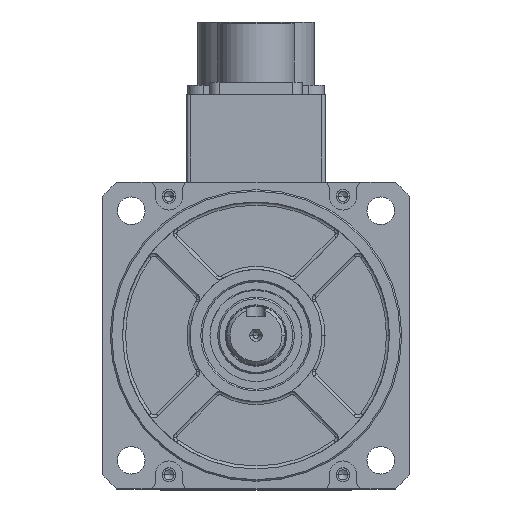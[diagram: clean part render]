
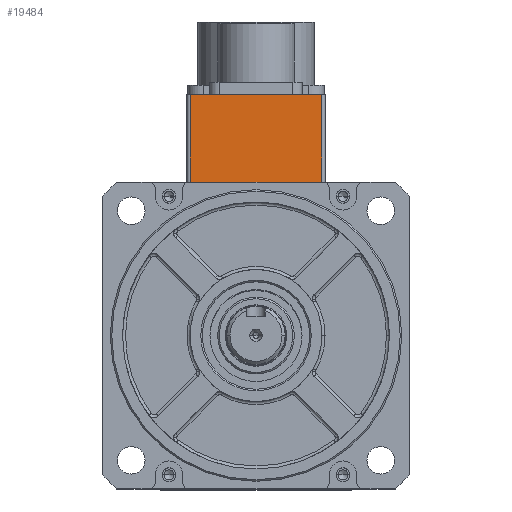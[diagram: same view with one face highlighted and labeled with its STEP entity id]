
A CAD part, top view. The second image highlights one B-rep face of the part: STEP entity #19484.
In plain terms, the highlighted planar face has unit normal (0, 0, 1) as drawn and (-1, 0, 0) by its records, which use the part's own axes.
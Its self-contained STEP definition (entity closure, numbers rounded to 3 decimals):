
#1937 = DIRECTION ( 'NONE',  ( 0., 0., 1. ) ) ;
#2674 = ORIENTED_EDGE ( 'NONE', *, *, #56468, .T. ) ;
#4221 = CARTESIAN_POINT ( 'NONE',  ( -54.5, 21.5, -29. ) ) ;
#5061 = LINE ( 'NONE', #8576, #42143 ) ;
#8576 = CARTESIAN_POINT ( 'NONE',  ( -54.5, 21.5, 0. ) ) ;
#11393 = VECTOR ( 'NONE', #21483, 1000. ) ;
#12619 = EDGE_LOOP ( 'NONE', ( #29176, #14148, #57326, #2674 ) ) ;
#12648 = LINE ( 'NONE', #43446, #28147 ) ;
#13888 = EDGE_CURVE ( 'NONE', #27219, #23662, #26453, .T. ) ;
#14148 = ORIENTED_EDGE ( 'NONE', *, *, #16657, .F. ) ;
#16657 = EDGE_CURVE ( 'NONE', #27219, #16705, #12648, .T. ) ;
#16705 = VERTEX_POINT ( 'NONE', #46049 ) ;
#18610 = CARTESIAN_POINT ( 'NONE',  ( -54.5, -21.5, -29. ) ) ;
#19484 = ADVANCED_FACE ( 'NONE', ( #36812 ), #37395, .T. ) ;
#21483 = DIRECTION ( 'NONE',  ( 0., -1., 0. ) ) ;
#23599 = CARTESIAN_POINT ( 'NONE',  ( -54.5, 21.5, -29. ) ) ;
#23662 = VERTEX_POINT ( 'NONE', #18610 ) ;
#25937 = LINE ( 'NONE', #43555, #52790 ) ;
#26453 = LINE ( 'NONE', #4221, #11393 ) ;
#27219 = VERTEX_POINT ( 'NONE', #50202 ) ;
#28147 = VECTOR ( 'NONE', #43744, 1000. ) ;
#29176 = ORIENTED_EDGE ( 'NONE', *, *, #53415, .F. ) ;
#30068 = VERTEX_POINT ( 'NONE', #32548 ) ;
#30905 = DIRECTION ( 'NONE',  ( 0., 0., 1. ) ) ;
#32548 = CARTESIAN_POINT ( 'NONE',  ( -54.5, -21.5, 0. ) ) ;
#32979 = DIRECTION ( 'NONE',  ( -1., 0., 0. ) ) ;
#36812 = FACE_OUTER_BOUND ( 'NONE', #12619, .T. ) ;
#37395 = PLANE ( 'NONE',  #55351 ) ;
#42143 = VECTOR ( 'NONE', #44359, 1000. ) ;
#43446 = CARTESIAN_POINT ( 'NONE',  ( -54.5, 21.5, -29. ) ) ;
#43555 = CARTESIAN_POINT ( 'NONE',  ( -54.5, -21.5, -29. ) ) ;
#43744 = DIRECTION ( 'NONE',  ( 0., 0., 1. ) ) ;
#44359 = DIRECTION ( 'NONE',  ( 0., -1., 0. ) ) ;
#46049 = CARTESIAN_POINT ( 'NONE',  ( -54.5, 21.5, 0. ) ) ;
#50202 = CARTESIAN_POINT ( 'NONE',  ( -54.5, 21.5, -29. ) ) ;
#52790 = VECTOR ( 'NONE', #30905, 1000. ) ;
#53415 = EDGE_CURVE ( 'NONE', #16705, #30068, #5061, .T. ) ;
#55351 = AXIS2_PLACEMENT_3D ( 'NONE', #23599, #32979, #1937 ) ;
#56468 = EDGE_CURVE ( 'NONE', #23662, #30068, #25937, .T. ) ;
#57326 = ORIENTED_EDGE ( 'NONE', *, *, #13888, .T. ) ;
